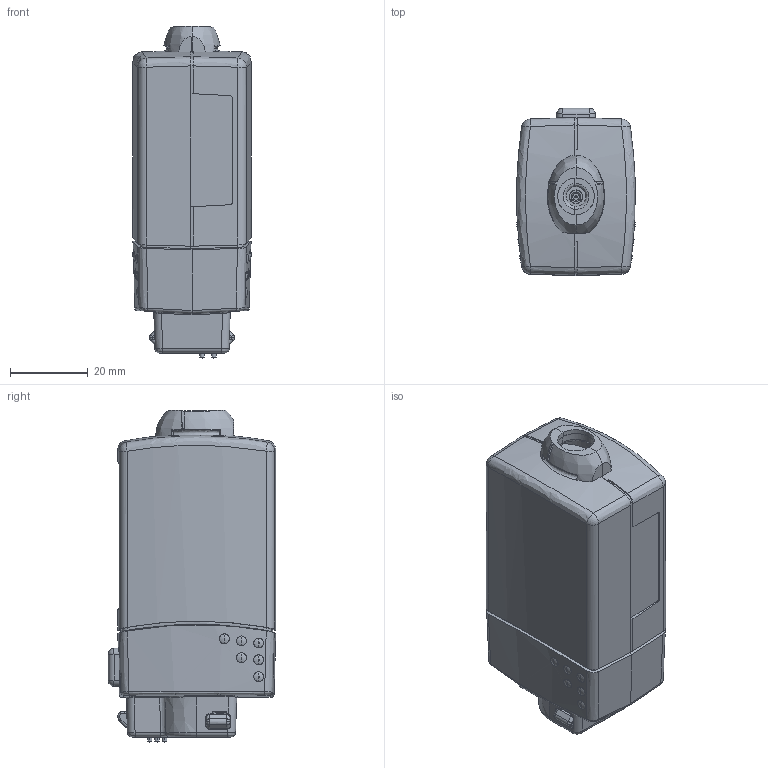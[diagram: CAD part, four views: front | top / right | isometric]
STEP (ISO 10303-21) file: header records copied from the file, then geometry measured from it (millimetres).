
FILE_DESCRIPTION((''),'2;1');
FILE_NAME('MODULE_COMPBOX_VPI_ETA_ASM','2018-07-03T',('mdevin'),(''),'CREO PARAMETRIC BY PTC INC, 2016050','CREO PARAMETRIC BY PTC INC, 2016050','');
FILE_SCHEMA(('CONFIG_CONTROL_DESIGN'));
Length unit declared in the file: inch
Products named in the file (25): BRACKET_BNC_ACTIVE_A_VPI; BRACKET_BNC_ACTIVE_B_VPI; 611X-4188-101; 611X-4188-112; 611X-4188-103; 611X-4188-102; 611X-4188-113; 611X-4188-120; 611X-4188-110; 611X-4188-100_ASM; BRACKET_BNC_ACTIVE_VPI_ASM; BRACKET_3POGO_VPI; CONN_POGO_PIN_VPI; CONN_3POGO_LEFT_123_VPI_ASM; CONN_3POGO_RIGHT_456_VPI_ASM; PCB_COMPBOX_PVFIX_VPI_ASM; COVER_ACTIV_RT_VPI_; COVER_ACTIV_LFT_VPI_; BRKT_COMPBOX_LABEL_PVFIX_VPI; PRE-NOSE_VPI_ETA_ASM; NOSE_VPI; CATCH_DOGS_VPI; CATCH_LOCK_VPI; NOSE_VPI_ASM; MODULE_COMPBOX_VPI_ETA_ASM
Assembly tree (31 placements, depth 5):
  MODULE_COMPBOX_VPI_ETA_ASM
    PRE-NOSE_VPI_ETA_ASM
      BRACKET_BNC_ACTIVE_VPI_ASM
        BRACKET_BNC_ACTIVE_A_VPI
        BRACKET_BNC_ACTIVE_B_VPI
        611X-4188-100_ASM
          611X-4188-101
          611X-4188-112
          611X-4188-103
          611X-4188-102
          611X-4188-113
          611X-4188-120
          611X-4188-110
      PCB_COMPBOX_PVFIX_VPI_ASM
        CONN_3POGO_LEFT_123_VPI_ASM
          BRACKET_3POGO_VPI
          CONN_POGO_PIN_VPI  x3
        CONN_3POGO_RIGHT_456_VPI_ASM
          BRACKET_3POGO_VPI
          CONN_POGO_PIN_VPI  x3
      COVER_ACTIV_RT_VPI_
      COVER_ACTIV_LFT_VPI_
      BRKT_COMPBOX_LABEL_PVFIX_VPI
    NOSE_VPI_ASM
      NOSE_VPI
      CATCH_DOGS_VPI  x2
      CATCH_LOCK_VPI
Bounding box: 30.43 x 43.03 x 85.22 mm (x, y, z)
Volume: 27298.2 mm3; surface area: 34800.9 mm2
Topology: 26 solids, 26 shells, 1743 faces, 4585 edges, 2926 vertices
Faces by surface type: plane 903, cylinder 367, cone 189, bspline 178, torus 57, sphere 47, extrusion 2
Entity records: 70492 total; most frequent: CARTESIAN_POINT 22669, ORIENTED_EDGE 7880, DIRECTION 6448, PRESENTATION_STYLE_ASSIGNMENT 3959, STYLED_ITEM 3959, CURVE_STYLE 3940, EDGE_CURVE 3940, VERTEX_POINT 2540
